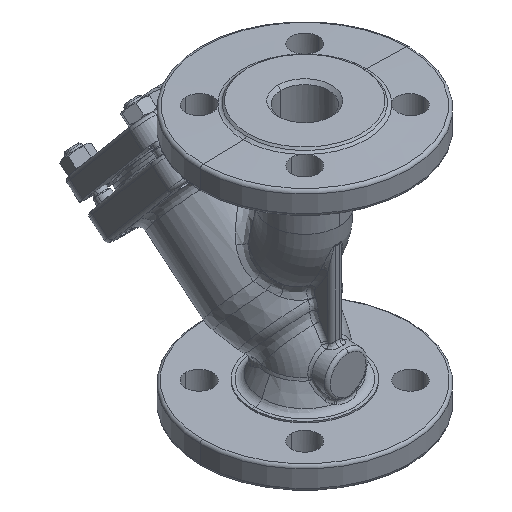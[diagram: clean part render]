
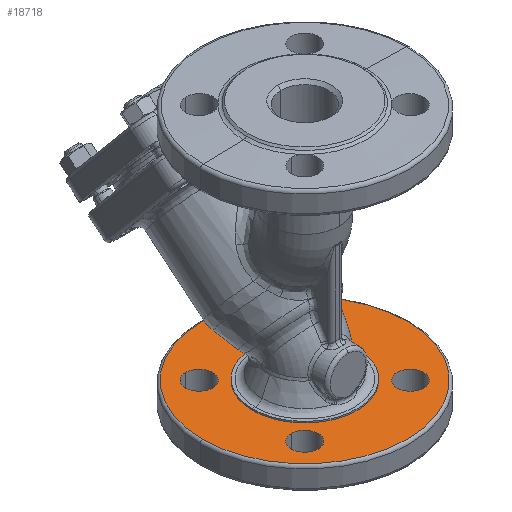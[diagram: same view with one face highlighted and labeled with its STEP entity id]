
A CAD part, isometric view. The second image highlights one B-rep face of the part: STEP entity #18718.
In plain terms, the highlighted planar face has unit normal (0, 0, 1).
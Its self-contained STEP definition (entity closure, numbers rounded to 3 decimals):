
#79 = ORIENTED_EDGE ( 'NONE', *, *, #36212, .T. ) ;
#80 = ORIENTED_EDGE ( 'NONE', *, *, #11039, .T. ) ;
#81 = ORIENTED_EDGE ( 'NONE', *, *, #11000, .T. ) ;
#82 = ORIENTED_EDGE ( 'NONE', *, *, #36214, .T. ) ;
#83 = ORIENTED_EDGE ( 'NONE', *, *, #36209, .T. ) ;
#84 = ORIENTED_EDGE ( 'NONE', *, *, #35987, .T. ) ;
#85 = ORIENTED_EDGE ( 'NONE', *, *, #36211, .T. ) ;
#86 = ORIENTED_EDGE ( 'NONE', *, *, #35975, .T. ) ;
#87 = ORIENTED_EDGE ( 'NONE', *, *, #36202, .T. ) ;
#88 = ORIENTED_EDGE ( 'NONE', *, *, #35983, .T. ) ;
#89 = ORIENTED_EDGE ( 'NONE', *, *, #36207, .T. ) ;
#90 = ORIENTED_EDGE ( 'NONE', *, *, #35979, .T. ) ;
#4667 = CARTESIAN_POINT ( 'NONE',  ( 44.355, 35.355, 18. ) ) ;
#4692 = CARTESIAN_POINT ( 'NONE',  ( -35.355, 26.355, 18. ) ) ;
#4694 = CARTESIAN_POINT ( 'NONE',  ( -35.355, -26.355, 18. ) ) ;
#4727 = CARTESIAN_POINT ( 'NONE',  ( -35.355, -44.355, 18. ) ) ;
#4774 = CARTESIAN_POINT ( 'NONE',  ( -35.355, 44.355, 18. ) ) ;
#4782 = CARTESIAN_POINT ( 'NONE',  ( -68.452, 0., 18. ) ) ;
#4784 = CARTESIAN_POINT ( 'NONE',  ( -35., 0., 18. ) ) ;
#4822 = CARTESIAN_POINT ( 'NONE',  ( 26.355, 35.355, 18. ) ) ;
#4851 = CARTESIAN_POINT ( 'NONE',  ( 35., 0., 18. ) ) ;
#4906 = CARTESIAN_POINT ( 'NONE',  ( 26.355, -35.355, 18. ) ) ;
#4960 = CARTESIAN_POINT ( 'NONE',  ( 44.355, -35.355, 18. ) ) ;
#4971 = CARTESIAN_POINT ( 'NONE',  ( 68.452, 0., 18. ) ) ;
#5500 = CIRCLE ( 'NONE', #11201, 35. ) ;
#5620 = CIRCLE ( 'NONE', #11223, 68.452 ) ;
#5871 = FACE_BOUND ( 'NONE', #7334, .T. ) ;
#5873 = FACE_BOUND ( 'NONE', #7333, .T. ) ;
#5886 = FACE_BOUND ( 'NONE', #7330, .T. ) ;
#5891 = FACE_OUTER_BOUND ( 'NONE', #7326, .T. ) ;
#5894 = FACE_BOUND ( 'NONE', #7321, .T. ) ;
#5898 = FACE_BOUND ( 'NONE', #7332, .T. ) ;
#7321 = EDGE_LOOP ( 'NONE', ( #83, #84 ) ) ;
#7326 = EDGE_LOOP ( 'NONE', ( #79, #80 ) ) ;
#7330 = EDGE_LOOP ( 'NONE', ( #81, #82 ) ) ;
#7332 = EDGE_LOOP ( 'NONE', ( #85, #86 ) ) ;
#7333 = EDGE_LOOP ( 'NONE', ( #87, #88 ) ) ;
#7334 = EDGE_LOOP ( 'NONE', ( #89, #90 ) ) ;
#11000 = EDGE_CURVE ( 'NONE', #30364, #30401, #5500, .T. ) ;
#11039 = EDGE_CURVE ( 'NONE', #30466, #30363, #5620, .T. ) ;
#11201 = AXIS2_PLACEMENT_3D ( 'NONE', #21126, #21127, #21128 ) ;
#11223 = AXIS2_PLACEMENT_3D ( 'NONE', #21343, #21350, #21351 ) ;
#11298 = AXIS2_PLACEMENT_3D ( 'NONE', #28540, #28793, #28794 ) ;
#11709 = AXIS2_PLACEMENT_3D ( 'NONE', #30802, #30833, #30834 ) ;
#11717 = AXIS2_PLACEMENT_3D ( 'NONE', #30857, #30860, #30861 ) ;
#11718 = AXIS2_PLACEMENT_3D ( 'NONE', #30747, #30797, #30798 ) ;
#11719 = AXIS2_PLACEMENT_3D ( 'NONE', #30847, #30850, #30851 ) ;
#11786 = AXIS2_PLACEMENT_3D ( 'NONE', #33214, #33215, #33216 ) ;
#11788 = AXIS2_PLACEMENT_3D ( 'NONE', #33250, #33279, #33280 ) ;
#11790 = AXIS2_PLACEMENT_3D ( 'NONE', #33278, #33285, #33286 ) ;
#11791 = AXIS2_PLACEMENT_3D ( 'NONE', #33281, #33288, #33289 ) ;
#11792 = AXIS2_PLACEMENT_3D ( 'NONE', #33284, #33290, #33291 ) ;
#11793 = AXIS2_PLACEMENT_3D ( 'NONE', #33287, #33293, #33294 ) ;
#18718 = ADVANCED_FACE ( 'NONE', ( #5891, #5886, #5894, #5898, #5873, #5871 ), #28538, .T. ) ;
#21126 = CARTESIAN_POINT ( 'NONE',  ( 0., 0., 18. ) ) ;
#21127 = DIRECTION ( 'NONE',  ( 0., 0., -1. ) ) ;
#21128 = DIRECTION ( 'NONE',  ( -1., 0., 0. ) ) ;
#21343 = CARTESIAN_POINT ( 'NONE',  ( 0., 0., 18. ) ) ;
#21350 = DIRECTION ( 'NONE',  ( 0., 0., 1. ) ) ;
#21351 = DIRECTION ( 'NONE',  ( 1., 0., 0. ) ) ;
#28538 = PLANE ( 'NONE',  #11298 ) ;
#28540 = CARTESIAN_POINT ( 'NONE',  ( 0., 35., 18. ) ) ;
#28793 = DIRECTION ( 'NONE',  ( 0., 0., 1. ) ) ;
#28794 = DIRECTION ( 'NONE',  ( 1., 0., 0. ) ) ;
#30097 = CIRCLE ( 'NONE', #11718, 9. ) ;
#30102 = CIRCLE ( 'NONE', #11709, 9. ) ;
#30107 = CIRCLE ( 'NONE', #11719, 9. ) ;
#30113 = CIRCLE ( 'NONE', #11717, 9. ) ;
#30267 = CIRCLE ( 'NONE', #11786, 9. ) ;
#30269 = CIRCLE ( 'NONE', #11788, 9. ) ;
#30272 = CIRCLE ( 'NONE', #11790, 9. ) ;
#30273 = CIRCLE ( 'NONE', #11791, 9. ) ;
#30274 = CIRCLE ( 'NONE', #11792, 68.452 ) ;
#30275 = CIRCLE ( 'NONE', #11793, 35. ) ;
#30301 = VERTEX_POINT ( 'NONE', #4667 ) ;
#30314 = VERTEX_POINT ( 'NONE', #4692 ) ;
#30315 = VERTEX_POINT ( 'NONE', #4694 ) ;
#30333 = VERTEX_POINT ( 'NONE', #4727 ) ;
#30359 = VERTEX_POINT ( 'NONE', #4774 ) ;
#30363 = VERTEX_POINT ( 'NONE', #4782 ) ;
#30364 = VERTEX_POINT ( 'NONE', #4784 ) ;
#30385 = VERTEX_POINT ( 'NONE', #4822 ) ;
#30401 = VERTEX_POINT ( 'NONE', #4851 ) ;
#30431 = VERTEX_POINT ( 'NONE', #4906 ) ;
#30460 = VERTEX_POINT ( 'NONE', #4960 ) ;
#30466 = VERTEX_POINT ( 'NONE', #4971 ) ;
#30747 = CARTESIAN_POINT ( 'NONE',  ( 35.355, -35.355, 18. ) ) ;
#30797 = DIRECTION ( 'NONE',  ( 0., 0., -1. ) ) ;
#30798 = DIRECTION ( 'NONE',  ( 1., 0., 0. ) ) ;
#30802 = CARTESIAN_POINT ( 'NONE',  ( -35.355, -35.355, 18. ) ) ;
#30833 = DIRECTION ( 'NONE',  ( 0., 0., -1. ) ) ;
#30834 = DIRECTION ( 'NONE',  ( 1., 0., 0. ) ) ;
#30847 = CARTESIAN_POINT ( 'NONE',  ( -35.355, 35.355, 18. ) ) ;
#30850 = DIRECTION ( 'NONE',  ( 0., 0., -1. ) ) ;
#30851 = DIRECTION ( 'NONE',  ( 1., 0., 0. ) ) ;
#30857 = CARTESIAN_POINT ( 'NONE',  ( 35.355, 35.355, 18. ) ) ;
#30860 = DIRECTION ( 'NONE',  ( 0., 0., -1. ) ) ;
#30861 = DIRECTION ( 'NONE',  ( 1., 0., 0. ) ) ;
#33214 = CARTESIAN_POINT ( 'NONE',  ( -35.355, 35.355, 18. ) ) ;
#33215 = DIRECTION ( 'NONE',  ( 0., 0., -1. ) ) ;
#33216 = DIRECTION ( 'NONE',  ( 1., 0., 0. ) ) ;
#33250 = CARTESIAN_POINT ( 'NONE',  ( -35.355, -35.355, 18. ) ) ;
#33278 = CARTESIAN_POINT ( 'NONE',  ( 35.355, 35.355, 18. ) ) ;
#33279 = DIRECTION ( 'NONE',  ( 0., 0., -1. ) ) ;
#33280 = DIRECTION ( 'NONE',  ( 1., 0., 0. ) ) ;
#33281 = CARTESIAN_POINT ( 'NONE',  ( 35.355, -35.355, 18. ) ) ;
#33284 = CARTESIAN_POINT ( 'NONE',  ( 0., 0., 18. ) ) ;
#33285 = DIRECTION ( 'NONE',  ( 0., 0., -1. ) ) ;
#33286 = DIRECTION ( 'NONE',  ( 1., 0., 0. ) ) ;
#33287 = CARTESIAN_POINT ( 'NONE',  ( 0., 0., 18. ) ) ;
#33288 = DIRECTION ( 'NONE',  ( 0., 0., -1. ) ) ;
#33289 = DIRECTION ( 'NONE',  ( 1., 0., 0. ) ) ;
#33290 = DIRECTION ( 'NONE',  ( 0., 0., 1. ) ) ;
#33291 = DIRECTION ( 'NONE',  ( 1., 0., 0. ) ) ;
#33293 = DIRECTION ( 'NONE',  ( 0., 0., -1. ) ) ;
#33294 = DIRECTION ( 'NONE',  ( -1., 0., 0. ) ) ;
#35975 = EDGE_CURVE ( 'NONE', #30460, #30431, #30097, .T. ) ;
#35979 = EDGE_CURVE ( 'NONE', #30333, #30315, #30102, .T. ) ;
#35983 = EDGE_CURVE ( 'NONE', #30314, #30359, #30107, .T. ) ;
#35987 = EDGE_CURVE ( 'NONE', #30301, #30385, #30113, .T. ) ;
#36202 = EDGE_CURVE ( 'NONE', #30359, #30314, #30267, .T. ) ;
#36207 = EDGE_CURVE ( 'NONE', #30315, #30333, #30269, .T. ) ;
#36209 = EDGE_CURVE ( 'NONE', #30385, #30301, #30272, .T. ) ;
#36211 = EDGE_CURVE ( 'NONE', #30431, #30460, #30273, .T. ) ;
#36212 = EDGE_CURVE ( 'NONE', #30363, #30466, #30274, .T. ) ;
#36214 = EDGE_CURVE ( 'NONE', #30401, #30364, #30275, .T. ) ;
